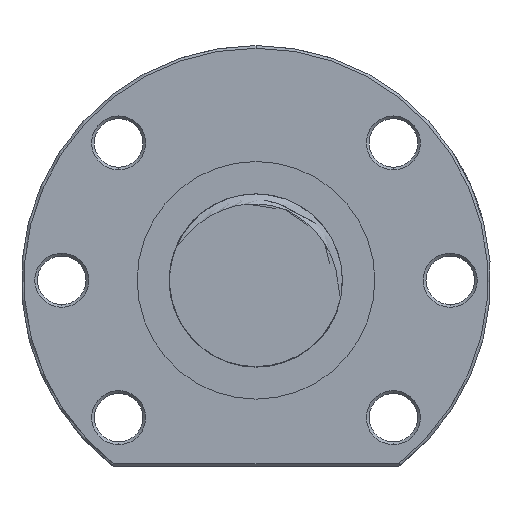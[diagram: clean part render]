
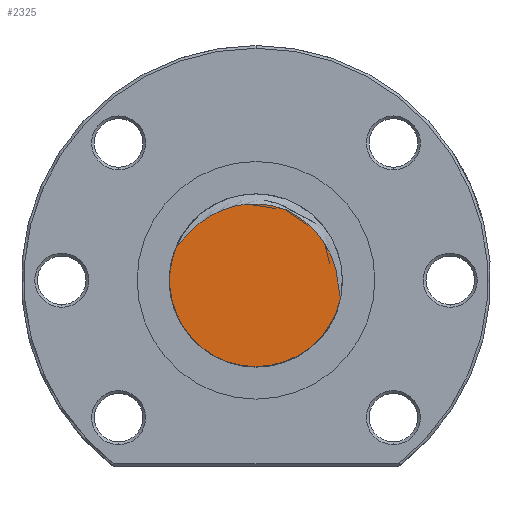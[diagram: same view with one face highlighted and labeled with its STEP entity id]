
A CAD part, left-side view. The second image highlights one B-rep face of the part: STEP entity #2325.
In plain terms, the highlighted planar face has unit normal (-1, 0, 0).
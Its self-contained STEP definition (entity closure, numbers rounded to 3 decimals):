
#1846 = DIRECTION ( 'NONE',  ( 0., 1., 0. ) ) ;
#1847 = DIRECTION ( 'NONE',  ( 1., 0., 0. ) ) ;
#1848 = CARTESIAN_POINT ( 'NONE',  ( -127., 0., 0. ) ) ;
#1849 = AXIS2_PLACEMENT_3D ( 'NONE', #1848, #1847, #1846 ) ;
#1850 = CIRCLE ( 'NONE', #1849, 16. ) ;
#1851 = CARTESIAN_POINT ( 'NONE',  ( -127., -15.638, -3.383 ) ) ;
#1898 = DIRECTION ( 'NONE',  ( 1., 0., 0. ) ) ;
#1900 = CARTESIAN_POINT ( 'NONE',  ( -127., 0., -16. ) ) ;
#1920 = DIRECTION ( 'NONE',  ( 0., 1., 0. ) ) ;
#1921 = AXIS2_PLACEMENT_3D ( 'NONE', #2068, #1898, #1920 ) ;
#1922 = CIRCLE ( 'NONE', #1921, 16. ) ;
#2068 = CARTESIAN_POINT ( 'NONE',  ( -127., 0., 0. ) ) ;
#2240 = ORIENTED_EDGE ( 'NONE', *, *, #9575, .F. ) ;
#2325 = ADVANCED_FACE ( 'NONE', ( #3966 ), #3965, .F. ) ;
#2326 = EDGE_LOOP ( 'NONE', ( #2327, #2328, #2240 ) ) ;
#2327 = ORIENTED_EDGE ( 'NONE', *, *, #9555, .F. ) ;
#2328 = ORIENTED_EDGE ( 'NONE', *, *, #2329, .T. ) ;
#2329 = EDGE_CURVE ( 'NONE', #9556, #9712, #3957, .T. ) ;
#3762 = CARTESIAN_POINT ( 'NONE',  ( -127., -15.352, -1.144 ) ) ;
#3764 = CARTESIAN_POINT ( 'NONE',  ( -127., -15.401, -1.593 ) ) ;
#3765 = CARTESIAN_POINT ( 'NONE',  ( -127., -15.475, -2.266 ) ) ;
#3953 = CARTESIAN_POINT ( 'NONE',  ( -127., -15.5, -2.491 ) ) ;
#3954 = CARTESIAN_POINT ( 'NONE',  ( -127., -15.557, -2.939 ) ) ;
#3955 = CARTESIAN_POINT ( 'NONE',  ( -127., -15.589, -3.163 ) ) ;
#3956 = CARTESIAN_POINT ( 'NONE',  ( -127., -15.638, -3.383 ) ) ;
#3957 = B_SPLINE_CURVE_WITH_KNOTS ( 'NONE', 3,
 ( #3956, #3955, #3954, #3953, #3765, #3764, #3762, #4545, #4544, #4543, #4388, #4387, #4386, #4475, #4474, #4473, #4472, #4471, #4470, #4469, #4415, #4414, #4413, #4412, #4411, #4410, #4409, #4408, #4407, #4352, #4351, #4350, #4349, #4348, #4347, #4346, #4345, #4344, #4343, #4342, #4503, #4502, #4501, #4500, #4499, #4498, #4497, #4496, #4495, #4494, #4493, #4492, #4491, #4490 ),
 .UNSPECIFIED., .F., .F.,
 ( 4, 2, 2, 2, 2, 2, 2, 2, 2, 2, 2, 2, 2, 2, 2, 2, 2, 2, 2, 2, 2, 2, 2, 2, 2, 2, 4 ),
 ( 0.001, 0.002, 0.002, 0.004, 0.006, 0.009, 0.011, 0.012, 0.015, 0.016, 0.017, 0.02, 0.021, 0.023, 0.026, 0.027, 0.028, 0.031, 0.032, 0.034, 0.037, 0.038, 0.039, 0.042, 0.043, 0.044, 0.045 ),
 .UNSPECIFIED. ) ;
#3961 = DIRECTION ( 'NONE',  ( 0., 0., -1. ) ) ;
#3962 = DIRECTION ( 'NONE',  ( 1., 0., 0. ) ) ;
#3963 = CARTESIAN_POINT ( 'NONE',  ( -127., 0., 0. ) ) ;
#3964 = AXIS2_PLACEMENT_3D ( 'NONE', #3963, #3962, #3961 ) ;
#3965 = PLANE ( 'NONE',  #3964 ) ;
#3966 = FACE_OUTER_BOUND ( 'NONE', #2326, .T. ) ;
#4342 = CARTESIAN_POINT ( 'NONE',  ( -127., 7.015, 12.719 ) ) ;
#4343 = CARTESIAN_POINT ( 'NONE',  ( -127., 5.763, 13.216 ) ) ;
#4344 = CARTESIAN_POINT ( 'NONE',  ( -127., 5.339, 13.365 ) ) ;
#4345 = CARTESIAN_POINT ( 'NONE',  ( -127., 4.473, 13.628 ) ) ;
#4346 = CARTESIAN_POINT ( 'NONE',  ( -127., 4.033, 13.742 ) ) ;
#4347 = CARTESIAN_POINT ( 'NONE',  ( -127., 2.713, 14.023 ) ) ;
#4348 = CARTESIAN_POINT ( 'NONE',  ( -127., 1.824, 14.133 ) ) ;
#4349 = CARTESIAN_POINT ( 'NONE',  ( -127., 0.478, 14.181 ) ) ;
#4350 = CARTESIAN_POINT ( 'NONE',  ( -127., 0.027, 14.177 ) ) ;
#4351 = CARTESIAN_POINT ( 'NONE',  ( -127., -0.879, 14.13 ) ) ;
#4352 = CARTESIAN_POINT ( 'NONE',  ( -127., -1.329, 14.087 ) ) ;
#4386 = CARTESIAN_POINT ( 'NONE',  ( -127., -13.581, 5.303 ) ) ;
#4387 = CARTESIAN_POINT ( 'NONE',  ( -127., -13.772, 4.896 ) ) ;
#4388 = CARTESIAN_POINT ( 'NONE',  ( -127., -14.293, 3.658 ) ) ;
#4407 = CARTESIAN_POINT ( 'NONE',  ( -127., -2.663, 13.899 ) ) ;
#4408 = CARTESIAN_POINT ( 'NONE',  ( -127., -3.535, 13.699 ) ) ;
#4409 = CARTESIAN_POINT ( 'NONE',  ( -127., -4.816, 13.28 ) ) ;
#4410 = CARTESIAN_POINT ( 'NONE',  ( -127., -5.24, 13.12 ) ) ;
#4411 = CARTESIAN_POINT ( 'NONE',  ( -127., -6.073, 12.762 ) ) ;
#4412 = CARTESIAN_POINT ( 'NONE',  ( -127., -6.479, 12.566 ) ) ;
#4413 = CARTESIAN_POINT ( 'NONE',  ( -127., -7.664, 11.928 ) ) ;
#4414 = CARTESIAN_POINT ( 'NONE',  ( -127., -8.412, 11.437 ) ) ;
#4415 = CARTESIAN_POINT ( 'NONE',  ( -127., -9.471, 10.603 ) ) ;
#4469 = CARTESIAN_POINT ( 'NONE',  ( -127., -9.814, 10.308 ) ) ;
#4470 = CARTESIAN_POINT ( 'NONE',  ( -127., -10.474, 9.687 ) ) ;
#4471 = CARTESIAN_POINT ( 'NONE',  ( -127., -10.788, 9.363 ) ) ;
#4472 = CARTESIAN_POINT ( 'NONE',  ( -127., -11.684, 8.358 ) ) ;
#4473 = CARTESIAN_POINT ( 'NONE',  ( -127., -12.221, 7.642 ) ) ;
#4474 = CARTESIAN_POINT ( 'NONE',  ( -127., -12.938, 6.5 ) ) ;
#4475 = CARTESIAN_POINT ( 'NONE',  ( -127., -13.163, 6.107 ) ) ;
#4490 = CARTESIAN_POINT ( 'NONE',  ( -127., 14.64, 6.455 ) ) ;
#4491 = CARTESIAN_POINT ( 'NONE',  ( -127., 14.47, 6.605 ) ) ;
#4492 = CARTESIAN_POINT ( 'NONE',  ( -127., 14.313, 6.768 ) ) ;
#4493 = CARTESIAN_POINT ( 'NONE',  ( -127., 14.002, 7.097 ) ) ;
#4494 = CARTESIAN_POINT ( 'NONE',  ( -127., 13.85, 7.265 ) ) ;
#4495 = CARTESIAN_POINT ( 'NONE',  ( -127., 13.393, 7.767 ) ) ;
#4496 = CARTESIAN_POINT ( 'NONE',  ( -127., 13.088, 8.103 ) ) ;
#4497 = CARTESIAN_POINT ( 'NONE',  ( -127., 12.151, 9.086 ) ) ;
#4498 = CARTESIAN_POINT ( 'NONE',  ( -127., 11.496, 9.713 ) ) ;
#4499 = CARTESIAN_POINT ( 'NONE',  ( -127., 10.453, 10.576 ) ) ;
#4500 = CARTESIAN_POINT ( 'NONE',  ( -127., 10.095, 10.852 ) ) ;
#4501 = CARTESIAN_POINT ( 'NONE',  ( -127., 9.358, 11.377 ) ) ;
#4502 = CARTESIAN_POINT ( 'NONE',  ( -127., 8.978, 11.626 ) ) ;
#4503 = CARTESIAN_POINT ( 'NONE',  ( -127., 7.818, 12.321 ) ) ;
#4543 = CARTESIAN_POINT ( 'NONE',  ( -127., -14.572, 2.811 ) ) ;
#4544 = CARTESIAN_POINT ( 'NONE',  ( -127., -15.013, 1.082 ) ) ;
#4545 = CARTESIAN_POINT ( 'NONE',  ( -127., -15.173, 0.198 ) ) ;
#9555 = EDGE_CURVE ( 'NONE', #9556, #9573, #1850, .T. ) ;
#9556 = VERTEX_POINT ( 'NONE', #1851 ) ;
#9573 = VERTEX_POINT ( 'NONE', #1900 ) ;
#9575 = EDGE_CURVE ( 'NONE', #9573, #9712, #1922, .T. ) ;
#9712 = VERTEX_POINT ( 'NONE', #11094 ) ;
#11094 = CARTESIAN_POINT ( 'NONE',  ( -127., 14.64, 6.455 ) ) ;
